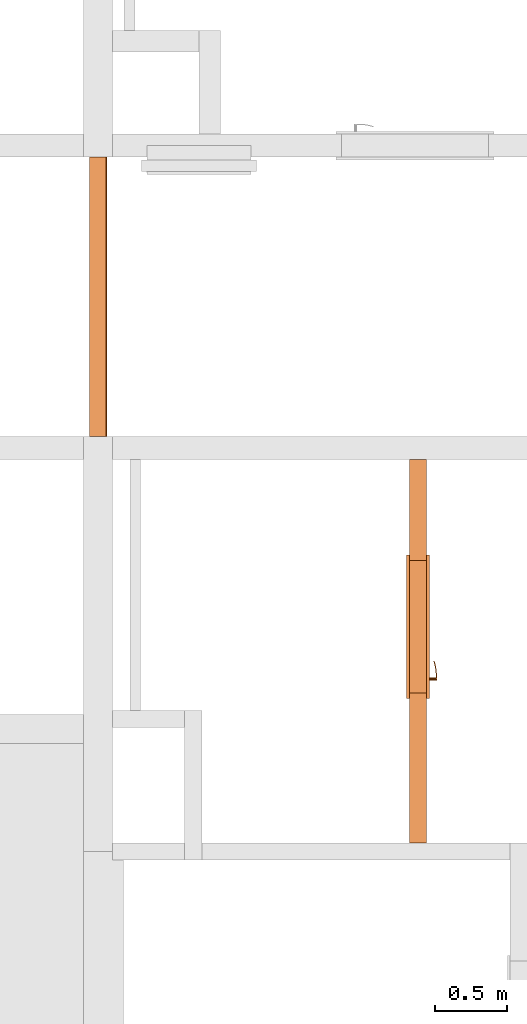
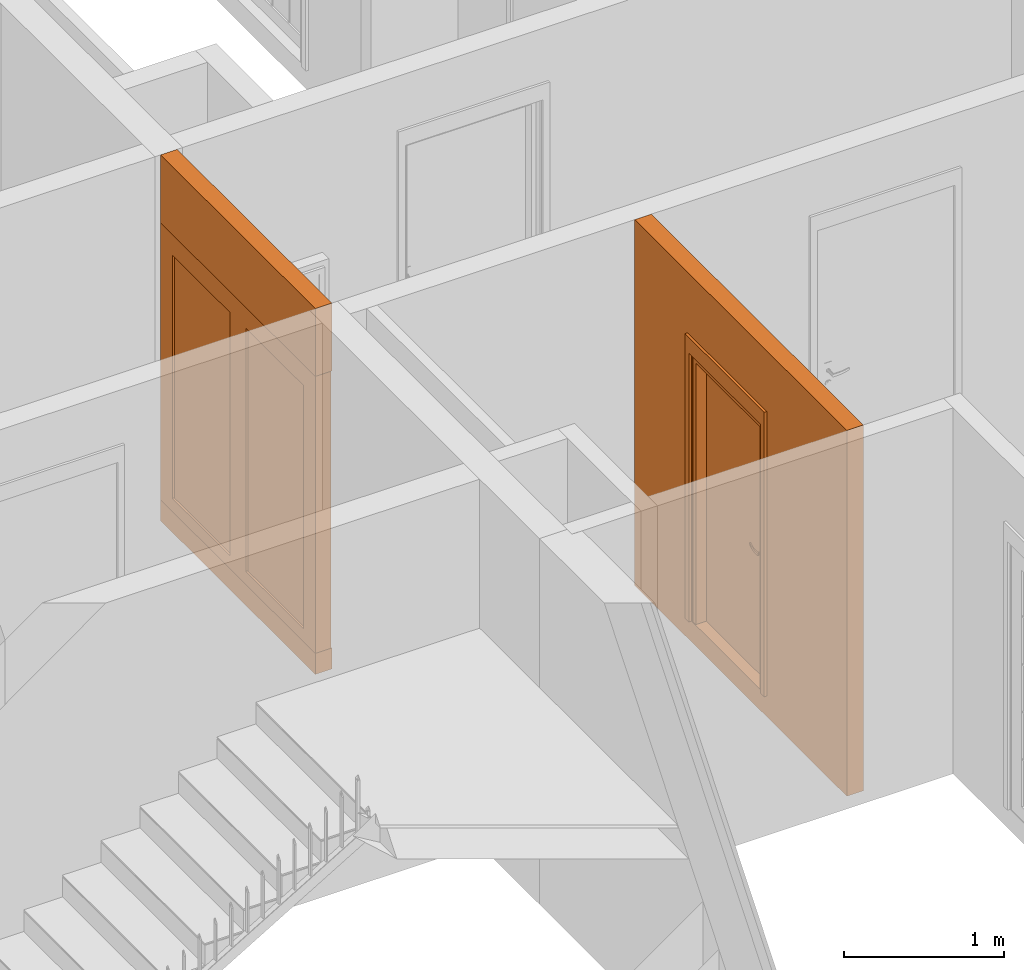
# One storey, part 21 of 64: 4 proxies, 2 openings.
"""IFC2X3 building model written with IfcOpenShell, lengths in millimetres."""

from ifc_helpers import new_model, entity, si_unit, converted_unit, derived_unit, money_unit, direction, frame, origin_with_axes, origin_2d_with_axis, place, context, subcontext, project, spatial, rectangle, extrude, open_shell, faceted_brep, surface_model, source, transform, mapped, material, type_object, element, fill, save


model = new_model("IFC2X3")

# Units and contexts
model_context = context("Model", 3, precision=0.01, world=origin_with_axes(), true_north=direction((0.34421633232, 0.938890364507)))
body_context = subcontext(model_context, "Body", "Model", "MODEL_VIEW")
ifc_project = project(units=[si_unit("LENGTHUNIT", "METRE", prefix="MILLI"), si_unit("AREAUNIT", "SQUARE_METRE"), si_unit("VOLUMEUNIT", "CUBIC_METRE"), converted_unit("PLANEANGLEUNIT", "DEGREE", entity("IfcPlaneAngleMeasure", 0.0174532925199), si_unit("PLANEANGLEUNIT", "RADIAN"), dimensions=[0, 0, 0, 0, 0, 0, 0]), si_unit("SOLIDANGLEUNIT", "STERADIAN"), money_unit("USD"), converted_unit("TIMEUNIT", "Year", entity("IfcTimeMeasure", 31556926.0), si_unit("TIMEUNIT", "SECOND"), dimensions=[0, 0, 1, 0, 0, 0, 0]), si_unit("MASSUNIT", "GRAM", prefix="KILO"), si_unit("THERMODYNAMICTEMPERATUREUNIT", "DEGREE_CELSIUS"), si_unit("LUMINOUSINTENSITYUNIT", "LUMEN"), si_unit("ENERGYUNIT", "JOULE", prefix="MEGA"), derived_unit("THERMALCONDUCTANCEUNIT", [(si_unit("POWERUNIT", "WATT"), 1), (si_unit("LENGTHUNIT", "METRE"), -1), (si_unit("THERMODYNAMICTEMPERATUREUNIT", "KELVIN"), -1)]), derived_unit("SPECIFICHEATCAPACITYUNIT", [(si_unit("ENERGYUNIT", "JOULE"), 1), (si_unit("MASSUNIT", "GRAM", prefix="KILO"), -1), (si_unit("THERMODYNAMICTEMPERATUREUNIT", "KELVIN"), -1)]), derived_unit("MASSDENSITYUNIT", [(si_unit("MASSUNIT", "GRAM", prefix="KILO"), 1), (si_unit("VOLUMEUNIT", "CUBIC_METRE"), -1)])], contexts=[model_context])

# Site, building, storey
site_placement = place(None, origin_with_axes())
site = spatial("IfcSite", under=ifc_project, at=site_placement, Name="USTRONIE MORSKIE", CompositionType="ELEMENT")
building_placement = place(site_placement, origin_with_axes())
building = spatial("IfcBuilding", under=site, at=building_placement, Name="Budynek", CompositionType="ELEMENT")
storey_placement = place(building_placement, frame((0.0, 0.0, 7000.0), z_axis=(0.0, 0.0, 1.0), x_axis=(1.0, 0.0, 0.0)))
storey = spatial("IfcBuildingStorey", under=building, at=storey_placement, Name="PIĘTRO 2", CompositionType="ELEMENT", Elevation=7000.0)

# Proxies, opening
ifc_material = material(Name="Bloczki silikatowe")
building_element_proxy_type_1 = type_object("IfcBuildingElementProxyType", Name="Bloczki silikatowe 120", PredefinedType="NOTDEFINED")
proxy_1_placement = place(storey_placement, frame((398537.940089, 731951.199132, -160.0), z_axis=(0.0, 0.0, 1.0), x_axis=(0.0, 1.0, 0.0)))
proxy_1 = element("IfcBuildingElementProxy", 1, at=proxy_1_placement, inside=storey, type_object=building_element_proxy_type_1, material=ifc_material, Name="SW-04", context=body_context, shape_type="Brep", body=[
    faceted_brep([(2720.00298174, -60.0, 2800.0), (2720.00301893, 60.0, 2800.0), (59.9999999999, 60.0, 2800.0), (59.9999999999, -60.0, 2800.0), (2720.00298174, -60.0, 0.0), (2720.00301893, 60.0, 0.0), (59.9999999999, 60.0, 0.0), (59.9999999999, -60.0, 0.0)], [[[0, 1, 2, 3]], [[1, 0, 4, 5]], [[1, 5, 6, 2]], [[7, 3, 2, 6]], [[4, 0, 3, 7]], [[5, 4, 7, 6]]]),
])
opening_1_placement = place(proxy_1_placement, frame((1559.96669926, 0.0, 160.0), z_axis=(0.0, 0.0, 1.0), x_axis=(1.0, 0.0, 0.0)))
opening_1 = element("IfcOpeningElement", 2, at=opening_1_placement, cuts=proxy_1, Name="Dw.4", context=body_context, shape_type="SweptSolid", body=[
    extrude(rectangle(XDim=920.0, YDim=2070.0, at=origin_2d_with_axis()), frame((0.0, 120.0, 1035.0), z_axis=(0.0, 1.0, 0.0), x_axis=(1.0, 0.0, 0.0)), (0.0, 0.0, -1.0), 360.0),
    extrude(rectangle(XDim=994.0, YDim=2177.0, at=origin_2d_with_axis()), frame((0.0, 60.0, 1088.5), z_axis=(0.0, 1.0, 0.0), x_axis=(1.0, 0.0, 0.0)), (0.0, 0.0, 1.0), 120.0),
    extrude(rectangle(XDim=994.0, YDim=2177.0, at=origin_2d_with_axis()), frame((0.0, -60.0, 1088.5), z_axis=(0.0, -1.0, 0.0), x_axis=(1.0, 0.0, 0.0)), (0.0, 0.0, 1.0), 120.0),
])
building_element_proxy_type_2 = type_object("IfcBuildingElementProxyType", Name="Drzwi 23", PredefinedType="NOTDEFINED")
shared_shape_1 = source(origin_with_axes(), body_context, "Body", "SurfaceModel", [
    faceted_brep([(460.0, -115.0, 0.0), (460.0, -120.0, 0.0), (435.0, -120.0, 0.0), (435.0, -115.0, 0.0), (460.0, -115.0, 2070.0), (460.0, -120.0, 2070.0), (435.0, -120.0, 2045.0), (435.0, -115.0, 2045.0)], [[[0, 1, 2, 3]], [[4, 5, 1, 0]], [[1, 5, 6, 2]], [[3, 2, 6, 7]], [[0, 3, 7, 4]], [[7, 6, 5, 4]]]),
    faceted_brep([(-460.0, -115.0, 2070.0), (-460.0, -120.0, 2070.0), (-435.0, -120.0, 2045.0), (-435.0, -115.0, 2045.0), (-460.0, -115.0, 0.0), (-460.0, -120.0, 0.0), (-435.0, -120.0, 0.0), (-435.0, -115.0, 0.0)], [[[0, 1, 2, 3]], [[4, 5, 1, 0]], [[1, 5, 6, 2]], [[3, 2, 6, 7]], [[0, 3, 7, 4]], [[7, 6, 5, 4]]]),
    faceted_brep([(435.0, -115.0, 2045.0), (435.0, -120.0, 2045.0), (-435.0, -120.0, 2045.0), (-435.0, -115.0, 2045.0), (460.0, -115.0, 2070.0), (460.0, -120.0, 2070.0), (-460.0, -120.0, 2070.0), (-460.0, -115.0, 2070.0)], [[[0, 1, 2, 3]], [[4, 5, 1, 0]], [[1, 5, 6, 2]], [[3, 2, 6, 7]], [[0, 3, 7, 4]], [[7, 6, 5, 4]]]),
    faceted_brep([(497.0, -139.0, 0.0), (447.0, -139.0, 0.0), (447.0, -120.0, 0.0), (497.0, -120.0, 0.0), (497.0, -139.0, 2177.0), (447.0, -139.0, 2057.0), (447.0, -120.0, 2057.0), (497.0, -120.0, 2177.0)], [[[0, 1, 2, 3]], [[0, 4, 5, 1]], [[1, 5, 6, 2]], [[3, 2, 6, 7]], [[4, 0, 3, 7]], [[5, 4, 7, 6]]]),
    faceted_brep([(-497.0, -139.0, 2177.0), (-447.0, -139.0, 2057.0), (-447.0, -120.0, 2057.0), (-497.0, -120.0, 2177.0), (-497.0, -139.0, 0.0), (-447.0, -139.0, 0.0), (-447.0, -120.0, 0.0), (-497.0, -120.0, 0.0)], [[[0, 1, 2, 3]], [[0, 4, 5, 1]], [[1, 5, 6, 2]], [[3, 2, 6, 7]], [[4, 0, 3, 7]], [[5, 4, 7, 6]]]),
    faceted_brep([(497.0, -139.0, 2177.0), (447.0, -139.0, 2057.0), (447.0, -120.0, 2057.0), (497.0, -120.0, 2177.0), (-497.0, -139.0, 2177.0), (-447.0, -139.0, 2057.0), (-447.0, -120.0, 2057.0), (-497.0, -120.0, 2177.0)], [[[0, 1, 2, 3]], [[0, 4, 5, 1]], [[1, 5, 6, 2]], [[3, 2, 6, 7]], [[4, 0, 3, 7]], [[5, 4, 7, 6]]]),
    faceted_brep([(497.0, 19.0, 0.0), (497.0, 0.0, 0.0), (447.0, 0.0, 0.0), (447.0, 19.0, 0.0), (497.0, 19.0, 2177.0), (497.0, 0.0, 2177.0), (447.0, 0.0, 2057.0), (447.0, 19.0, 2057.0)], [[[0, 1, 2, 3]], [[4, 5, 1, 0]], [[1, 5, 6, 2]], [[3, 2, 6, 7]], [[0, 3, 7, 4]], [[7, 6, 5, 4]]]),
    faceted_brep([(-497.0, 19.0, 2177.0), (-497.0, 0.0, 2177.0), (-447.0, 0.0, 2057.0), (-447.0, 19.0, 2057.0), (-497.0, 19.0, 0.0), (-497.0, 0.0, 0.0), (-447.0, 0.0, 0.0), (-447.0, 19.0, 0.0)], [[[0, 1, 2, 3]], [[4, 5, 1, 0]], [[1, 5, 6, 2]], [[3, 2, 6, 7]], [[0, 3, 7, 4]], [[7, 6, 5, 4]]]),
    faceted_brep([(497.0, 19.0, 2177.0), (497.0, 0.0, 2177.0), (447.0, 0.0, 2057.0), (447.0, 19.0, 2057.0), (-497.0, 19.0, 2177.0), (-497.0, 0.0, 2177.0), (-447.0, 0.0, 2057.0), (-447.0, 19.0, 2057.0)], [[[0, 1, 2, 3]], [[4, 5, 1, 0]], [[1, 5, 6, 2]], [[3, 2, 6, 7]], [[0, 3, 7, 4]], [[7, 6, 5, 4]]]),
    faceted_brep([(400.0, -40.0, 0.0), (400.0, -115.0, 0.0), (400.0, -115.0, 2000.0), (400.0, -40.0, 2000.0), (412.0, -40.0, 0.0), (412.0, 0.0, 0.0), (460.0, 0.0, 0.0), (460.0, -115.0, 0.0), (460.0, -115.0, 2000.0), (412.0, -40.0, 2000.0), (460.0, 0.0, 2000.0), (412.0, 0.0, 2000.0)], [[[0, 1, 2, 3]], [[4, 5, 6, 7, 1, 0]], [[1, 7, 8, 2]], [[9, 3, 2, 8, 10, 11]], [[9, 4, 0, 3]], [[11, 5, 4, 9]], [[11, 10, 6, 5]], [[6, 10, 8, 7]]]),
    faceted_brep([(-412.0, -40.0, 2000.0), (-412.0, 0.0, 2000.0), (-460.0, 0.0, 2000.0), (-460.0, -115.0, 2000.0), (-400.0, -115.0, 2000.0), (-400.0, -40.0, 2000.0), (-412.0, -40.0, 0.0), (-412.0, 0.0, 0.0), (-460.0, 0.0, 0.0), (-460.0, -115.0, 0.0), (-400.0, -115.0, 0.0), (-400.0, -40.0, 0.0)], [[[0, 1, 2, 3, 4, 5]], [[0, 6, 7, 1]], [[7, 8, 2, 1]], [[2, 8, 9, 3]], [[3, 9, 10, 4]], [[5, 4, 10, 11]], [[5, 11, 6, 0]], [[6, 11, 10, 9, 8, 7]]]),
    faceted_brep([(412.0, 0.0, 2012.0), (-412.0, 0.0, 2012.0), (-412.0, 0.0, 2000.0), (-460.0, 0.0, 2000.0), (-460.0, 0.0, 2070.0), (460.0, 0.0, 2070.0), (460.0, 0.0, 2000.0), (412.0, 0.0, 2000.0), (412.0, -40.0, 2012.0), (-412.0, -40.0, 2012.0), (-412.0, -40.0, 2000.0), (-400.0, -40.0, 2000.0), (-400.0, -115.0, 2000.0), (-460.0, -115.0, 2000.0), (-460.0, -115.0, 2070.0), (460.0, -115.0, 2070.0), (460.0, -115.0, 2000.0), (412.0, -40.0, 2000.0), (400.0, -115.0, 2000.0), (400.0, -40.0, 2000.0)], [[[0, 1, 2, 3, 4, 5, 6, 7]], [[0, 8, 9, 1]], [[1, 9, 10, 2]], [[10, 11, 12, 13, 3, 2]], [[4, 3, 13, 14]], [[5, 4, 14, 15]], [[6, 5, 15, 16]], [[17, 7, 6, 16, 18, 19]], [[7, 17, 8, 0]], [[10, 9, 8, 17, 19, 11]], [[19, 18, 12, 11]], [[12, 18, 16, 15, 14, 13]]]),
    faceted_brep([(390.5, -40.0, 1060.0), (333.5, -40.0, 1060.0), (333.5, -43.0, 1060.0), (390.5, -43.0, 1060.0), (390.5, -40.0, 870.0), (333.5, -40.0, 870.0), (333.5, -43.0, 870.0), (390.5, -43.0, 870.0)], [[[0, 1, 2, 3]], [[0, 4, 5, 1]], [[1, 5, 6, 2]], [[3, 2, 6, 7]], [[4, 0, 3, 7]], [[5, 4, 7, 6]]]),
    faceted_brep([(362.0, -104.0, 990.0), (367.0, -104.0, 991.339745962), (367.0, -111.0, 991.339745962), (362.0, -111.0, 990.0), (337.0, -104.0, 990.0), (337.0, -104.0, 1010.0), (362.0, -104.0, 1010.0), (367.0, -104.0, 1008.66025404), (370.660254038, -104.0, 1005.0), (372.0, -104.0, 1000.0), (370.660254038, -104.0, 995.0), (370.660254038, -111.0, 995.0), (372.0, -111.0, 1000.0), (370.660254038, -111.0, 1005.0), (367.0, -111.0, 1008.66025404), (362.0, -111.0, 1010.0), (337.0, -111.0, 1010.0), (337.0, -111.0, 990.0)], [[[0, 1, 2, 3]], [[0, 4, 5, 6, 7, 8, 9, 10, 1]], [[1, 10, 11, 2]], [[3, 2, 11, 12, 13, 14, 15, 16, 17]], [[4, 0, 3, 17]], [[5, 4, 17, 16]], [[6, 5, 16, 15]], [[7, 6, 15, 14]], [[8, 7, 14, 13]], [[9, 8, 13, 12]], [[10, 9, 12, 11]]]),
    surface_model("IfcShellBasedSurfaceModel", [(337.0, -104.0, 1010.0), (323.901717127, -104.0, 1009.60730092), (323.596090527, -111.0, 1009.60730092), (337.0, -104.0, 990.0), (323.901717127, -104.0, 990.392699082), (296.890283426, -108.663544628, 1008.82190275), (337.0, -111.0, 1010.0), (337.0, -111.0, 990.0), (297.804837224, -101.716818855, 991.178097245), (297.804837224, -101.716818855, 1008.82190275), (296.890283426, -108.663544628, 991.178097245), (323.596090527, -111.0, 990.392699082), (272.006256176, -97.1678329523, 991.963495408), (272.006256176, -97.1678329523, 1008.03650459), (270.489735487, -104.008415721, 1008.03650459), (270.489735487, -104.008415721, 991.963495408), (246.702316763, -90.3876628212, 992.748893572), (246.702316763, -90.3876628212, 1007.25110643), (244.59537082, -97.0700416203, 1007.25110643), (244.59537082, -97.0700416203, 992.748893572), (238.829442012, -87.5221707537, 993.0), (238.829442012, -87.5221707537, 1007.0), (236.538795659, -94.1376880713, 1007.0), (236.538795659, -94.1376880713, 993.0)], [open_shell([[[0, 1, 2]], [[0, 3, 4, 1]], [[1, 5, 2]], [[0, 2, 6]], [[4, 3, 7]], [[1, 4, 8, 9]], [[1, 9, 5]], [[2, 5, 10, 11]], [[6, 2, 11, 7]], [[4, 7, 11]], [[8, 4, 11]], [[9, 8, 12, 13]], [[9, 14, 5]], [[5, 14, 15, 10]], [[8, 11, 10]], [[12, 8, 10]], [[13, 12, 16, 17]], [[9, 13, 14]], [[14, 18, 19, 15]], [[12, 10, 15]], [[16, 12, 15]], [[17, 16, 20, 21]], [[13, 17, 18]], [[13, 18, 14]], [[18, 22, 23, 19]], [[16, 15, 19]], [[20, 16, 19]], [[21, 20, 23, 22]], [[17, 21, 22]], [[17, 22, 18]], [[20, 19, 23]]])]),
    faceted_brep([(351.607695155, -53.0, 994.0), (350.0, -53.0, 1000.0), (349.0, -43.0, 1000.0), (350.741669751, -43.0, 993.5), (356.0, -53.0, 989.607695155), (362.0, -53.0, 988.0), (368.0, -53.0, 989.607695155), (372.392304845, -53.0, 994.0), (374.0, -53.0, 1000.0), (372.392304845, -53.0, 1006.0), (368.0, -53.0, 1010.39230485), (362.0, -53.0, 1012.0), (356.0, -53.0, 1010.39230485), (351.607695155, -53.0, 1006.0), (350.741669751, -43.0, 1006.5), (355.5, -43.0, 1011.25833025), (362.0, -43.0, 1013.0), (368.5, -43.0, 1011.25833025), (373.258330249, -43.0, 1006.5), (375.0, -43.0, 1000.0), (373.258330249, -43.0, 993.5), (368.5, -43.0, 988.741669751), (362.0, -43.0, 987.0), (355.5, -43.0, 988.741669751)], [[[0, 1, 2, 3]], [[1, 0, 4, 5, 6, 7, 8, 9, 10, 11, 12, 13]], [[1, 13, 14, 2]], [[2, 14, 15, 16, 17, 18, 19, 20, 21, 22, 23, 3]], [[4, 0, 3, 23]], [[5, 4, 23, 22]], [[6, 5, 22, 21]], [[7, 6, 21, 20]], [[8, 7, 20, 19]], [[9, 8, 19, 18]], [[10, 9, 18, 17]], [[11, 10, 17, 16]], [[12, 11, 16, 15]], [[13, 12, 15, 14]]]),
    faceted_brep([(344.679491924, -47.0, 895.0), (342.0, -47.0, 905.0), (340.0, -43.0, 905.0), (342.947441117, -43.0, 894.0), (352.0, -47.0, 887.679491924), (362.0, -47.0, 885.0), (372.0, -47.0, 887.679491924), (379.320508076, -47.0, 895.0), (382.0, -47.0, 905.0), (379.320508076, -47.0, 915.0), (372.0, -47.0, 922.320508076), (362.0, -47.0, 925.0), (352.0, -47.0, 922.320508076), (344.679491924, -47.0, 915.0), (342.947441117, -43.0, 916.0), (351.0, -43.0, 924.052558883), (362.0, -43.0, 927.0), (373.0, -43.0, 924.052558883), (381.052558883, -43.0, 916.0), (384.0, -43.0, 905.0), (381.052558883, -43.0, 894.0), (373.0, -43.0, 885.947441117), (362.0, -43.0, 883.0), (351.0, -43.0, 885.947441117)], [[[0, 1, 2, 3]], [[1, 0, 4, 5, 6, 7, 8, 9, 10, 11, 12, 13]], [[1, 13, 14, 2]], [[2, 14, 15, 16, 17, 18, 19, 20, 21, 22, 23, 3]], [[4, 0, 3, 23]], [[5, 4, 23, 22]], [[6, 5, 22, 21]], [[7, 6, 21, 20]], [[8, 7, 20, 19]], [[9, 8, 19, 18]], [[10, 9, 18, 17]], [[11, 10, 17, 16]], [[12, 11, 16, 15]], [[13, 12, 15, 14]]]),
    faceted_brep([(357.050252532, -49.0, 909.050252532), (355.0, -49.0, 914.0), (354.0, -47.0, 914.0), (356.343145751, -47.0, 908.343145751), (362.0, -49.0, 907.0), (366.949747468, -49.0, 909.050252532), (369.0, -49.0, 914.0), (366.949747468, -49.0, 918.949747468), (362.0, -49.0, 921.0), (357.050252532, -49.0, 918.949747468), (356.343145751, -47.0, 919.656854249), (362.0, -47.0, 922.0), (367.656854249, -47.0, 919.656854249), (370.0, -47.0, 914.0), (367.656854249, -47.0, 908.343145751), (362.0, -47.0, 906.0)], [[[0, 1, 2, 3]], [[1, 0, 4, 5, 6, 7, 8, 9]], [[1, 9, 10, 2]], [[2, 10, 11, 12, 13, 14, 15, 3]], [[4, 0, 3, 15]], [[5, 4, 15, 14]], [[6, 5, 14, 13]], [[7, 6, 13, 12]], [[8, 7, 12, 11]], [[9, 8, 11, 10]]]),
    faceted_brep([(362.0, -53.0, 1010.0), (357.0, -53.0, 1008.66025404), (357.0, -104.0, 1008.66025404), (362.0, -104.0, 1010.0), (367.0, -53.0, 1008.66025404), (370.660254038, -53.0, 1005.0), (372.0, -53.0, 1000.0), (370.660254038, -53.0, 995.0), (367.0, -53.0, 991.339745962), (362.0, -53.0, 990.0), (357.0, -53.0, 991.339745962), (353.339745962, -53.0, 995.0), (352.0, -53.0, 1000.0), (353.339745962, -53.0, 1005.0), (353.339745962, -104.0, 1005.0), (352.0, -104.0, 1000.0), (353.339745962, -104.0, 995.0), (357.0, -104.0, 991.339745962), (362.0, -104.0, 990.0), (367.0, -104.0, 991.339745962), (370.660254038, -104.0, 995.0), (372.0, -104.0, 1000.0), (370.660254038, -104.0, 1005.0), (367.0, -104.0, 1008.66025404)], [[[0, 1, 2, 3]], [[0, 4, 5, 6, 7, 8, 9, 10, 11, 12, 13, 1]], [[1, 13, 14, 2]], [[3, 2, 14, 15, 16, 17, 18, 19, 20, 21, 22, 23]], [[4, 0, 3, 23]], [[5, 4, 23, 22]], [[6, 5, 22, 21]], [[7, 6, 21, 20]], [[8, 7, 20, 19]], [[9, 8, 19, 18]], [[10, 9, 18, 17]], [[11, 10, 17, 16]], [[12, 11, 16, 15]], [[13, 12, 15, 14]]]),
    faceted_brep([(390.5, 0.0, 1060.0), (390.5, 3.0, 1060.0), (333.5, 3.0, 1060.0), (333.5, 0.0, 1060.0), (390.5, 0.0, 870.0), (390.5, 3.0, 870.0), (333.5, 3.0, 870.0), (333.5, 0.0, 870.0)], [[[0, 1, 2, 3]], [[4, 5, 1, 0]], [[1, 5, 6, 2]], [[3, 2, 6, 7]], [[0, 3, 7, 4]], [[7, 6, 5, 4]]]),
    faceted_brep([(362.0, 64.0, 990.0), (362.0, 71.0, 990.0), (367.0, 71.0, 991.339745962), (367.0, 64.0, 991.339745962), (337.0, 64.0, 990.0), (337.0, 71.0, 990.0), (337.0, 71.0, 1010.0), (362.0, 71.0, 1010.0), (367.0, 71.0, 1008.66025404), (370.660254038, 71.0, 1005.0), (372.0, 71.0, 1000.0), (370.660254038, 71.0, 995.0), (370.660254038, 64.0, 995.0), (372.0, 64.0, 1000.0), (370.660254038, 64.0, 1005.0), (367.0, 64.0, 1008.66025404), (362.0, 64.0, 1010.0), (337.0, 64.0, 1010.0)], [[[0, 1, 2, 3]], [[4, 5, 1, 0]], [[1, 5, 6, 7, 8, 9, 10, 11, 2]], [[3, 2, 11, 12]], [[0, 3, 12, 13, 14, 15, 16, 17, 4]], [[17, 6, 5, 4]], [[16, 7, 6, 17]], [[15, 8, 7, 16]], [[14, 9, 8, 15]], [[13, 10, 9, 14]], [[12, 11, 10, 13]]]),
    surface_model("IfcShellBasedSurfaceModel", [(337.0, 64.0, 1010.0), (323.596090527, 71.0, 1009.60730092), (323.901717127, 64.0, 1009.60730092), (337.0, 71.0, 1010.0), (296.890283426, 68.6635446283, 1008.82190275), (323.901717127, 64.0, 990.392699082), (337.0, 64.0, 990.0), (337.0, 71.0, 990.0), (323.596090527, 71.0, 990.392699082), (296.890283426, 68.6635446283, 991.178097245), (297.804837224, 61.716818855, 1008.82190275), (297.804837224, 61.716818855, 991.178097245), (270.489735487, 64.0084157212, 991.963495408), (270.489735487, 64.0084157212, 1008.03650459), (272.006256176, 57.1678329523, 1008.03650459), (272.006256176, 57.1678329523, 991.963495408), (244.59537082, 57.0700416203, 992.748893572), (244.59537082, 57.0700416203, 1007.25110643), (246.702316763, 50.3876628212, 1007.25110643), (246.702316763, 50.3876628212, 992.748893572), (236.538795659, 54.1376880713, 993.0), (236.538795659, 54.1376880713, 1007.0), (238.829442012, 47.5221707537, 1007.0), (238.829442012, 47.5221707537, 993.0)], [open_shell([[[0, 1, 2]], [[0, 3, 1]], [[2, 1, 4]], [[0, 2, 5, 6]], [[3, 7, 8, 1]], [[1, 8, 9, 4]], [[2, 4, 10]], [[2, 10, 11, 5]], [[5, 7, 6]], [[5, 8, 7]], [[11, 9, 8]], [[4, 9, 12, 13]], [[10, 4, 13]], [[10, 14, 15, 11]], [[11, 8, 5]], [[15, 9, 11]], [[15, 12, 9]], [[13, 12, 16, 17]], [[10, 13, 14]], [[14, 18, 19, 15]], [[19, 12, 15]], [[19, 16, 12]], [[17, 16, 20, 21]], [[14, 13, 17]], [[14, 17, 18]], [[18, 22, 23, 19]], [[23, 16, 19]], [[23, 20, 16]], [[22, 21, 20, 23]], [[18, 17, 21]], [[18, 21, 22]]])]),
    faceted_brep([(351.607695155, 13.0, 994.0), (350.741669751, 3.0, 993.5), (349.0, 3.0, 1000.0), (350.0, 13.0, 1000.0), (356.0, 13.0, 989.607695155), (355.5, 3.0, 988.741669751), (362.0, 3.0, 987.0), (368.5, 3.0, 988.741669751), (373.258330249, 3.0, 993.5), (375.0, 3.0, 1000.0), (373.258330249, 3.0, 1006.5), (368.5, 3.0, 1011.25833025), (362.0, 3.0, 1013.0), (355.5, 3.0, 1011.25833025), (350.741669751, 3.0, 1006.5), (351.607695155, 13.0, 1006.0), (356.0, 13.0, 1010.39230485), (362.0, 13.0, 1012.0), (368.0, 13.0, 1010.39230485), (372.392304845, 13.0, 1006.0), (374.0, 13.0, 1000.0), (372.392304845, 13.0, 994.0), (368.0, 13.0, 989.607695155), (362.0, 13.0, 988.0)], [[[0, 1, 2, 3]], [[4, 5, 1, 0]], [[2, 1, 5, 6, 7, 8, 9, 10, 11, 12, 13, 14]], [[3, 2, 14, 15]], [[3, 15, 16, 17, 18, 19, 20, 21, 22, 23, 4, 0]], [[23, 6, 5, 4]], [[22, 7, 6, 23]], [[21, 8, 7, 22]], [[20, 9, 8, 21]], [[19, 10, 9, 20]], [[18, 11, 10, 19]], [[17, 12, 11, 18]], [[16, 13, 12, 17]], [[15, 14, 13, 16]]]),
    faceted_brep([(344.679491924, 7.0, 895.0), (342.947441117, 3.0, 894.0), (340.0, 3.0, 905.0), (342.0, 7.0, 905.0), (352.0, 7.0, 887.679491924), (351.0, 3.0, 885.947441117), (362.0, 3.0, 883.0), (373.0, 3.0, 885.947441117), (381.052558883, 3.0, 894.0), (384.0, 3.0, 905.0), (381.052558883, 3.0, 916.0), (373.0, 3.0, 924.052558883), (362.0, 3.0, 927.0), (351.0, 3.0, 924.052558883), (342.947441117, 3.0, 916.0), (344.679491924, 7.0, 915.0), (352.0, 7.0, 922.320508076), (362.0, 7.0, 925.0), (372.0, 7.0, 922.320508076), (379.320508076, 7.0, 915.0), (382.0, 7.0, 905.0), (379.320508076, 7.0, 895.0), (372.0, 7.0, 887.679491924), (362.0, 7.0, 885.0)], [[[0, 1, 2, 3]], [[4, 5, 1, 0]], [[2, 1, 5, 6, 7, 8, 9, 10, 11, 12, 13, 14]], [[3, 2, 14, 15]], [[3, 15, 16, 17, 18, 19, 20, 21, 22, 23, 4, 0]], [[23, 6, 5, 4]], [[22, 7, 6, 23]], [[21, 8, 7, 22]], [[20, 9, 8, 21]], [[19, 10, 9, 20]], [[18, 11, 10, 19]], [[17, 12, 11, 18]], [[16, 13, 12, 17]], [[15, 14, 13, 16]]]),
    faceted_brep([(357.050252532, 9.0, 909.050252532), (356.343145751, 7.0, 908.343145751), (354.0, 7.0, 914.0), (355.0, 9.0, 914.0), (362.0, 9.0, 907.0), (362.0, 7.0, 906.0), (367.656854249, 7.0, 908.343145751), (370.0, 7.0, 914.0), (367.656854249, 7.0, 919.656854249), (362.0, 7.0, 922.0), (356.343145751, 7.0, 919.656854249), (357.050252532, 9.0, 918.949747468), (362.0, 9.0, 921.0), (366.949747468, 9.0, 918.949747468), (369.0, 9.0, 914.0), (366.949747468, 9.0, 909.050252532)], [[[0, 1, 2, 3]], [[4, 5, 1, 0]], [[2, 1, 5, 6, 7, 8, 9, 10]], [[3, 2, 10, 11]], [[3, 11, 12, 13, 14, 15, 4, 0]], [[15, 6, 5, 4]], [[14, 7, 6, 15]], [[13, 8, 7, 14]], [[12, 9, 8, 13]], [[11, 10, 9, 12]]]),
    faceted_brep([(362.0, 13.0, 1010.0), (362.0, 64.0, 1010.0), (357.0, 64.0, 1008.66025404), (357.0, 13.0, 1008.66025404), (367.0, 13.0, 1008.66025404), (367.0, 64.0, 1008.66025404), (370.660254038, 64.0, 1005.0), (372.0, 64.0, 1000.0), (370.660254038, 64.0, 995.0), (367.0, 64.0, 991.339745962), (362.0, 64.0, 990.0), (357.0, 64.0, 991.339745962), (353.339745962, 64.0, 995.0), (352.0, 64.0, 1000.0), (353.339745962, 64.0, 1005.0), (353.339745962, 13.0, 1005.0), (352.0, 13.0, 1000.0), (353.339745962, 13.0, 995.0), (357.0, 13.0, 991.339745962), (362.0, 13.0, 990.0), (367.0, 13.0, 991.339745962), (370.660254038, 13.0, 995.0), (372.0, 13.0, 1000.0), (370.660254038, 13.0, 1005.0)], [[[0, 1, 2, 3]], [[4, 5, 1, 0]], [[1, 5, 6, 7, 8, 9, 10, 11, 12, 13, 14, 2]], [[3, 2, 14, 15]], [[0, 3, 15, 16, 17, 18, 19, 20, 21, 22, 23, 4]], [[23, 6, 5, 4]], [[22, 7, 6, 23]], [[21, 8, 7, 22]], [[20, 9, 8, 21]], [[19, 10, 9, 20]], [[18, 11, 10, 19]], [[17, 12, 11, 18]], [[16, 13, 12, 17]], [[15, 14, 13, 16]]]),
    faceted_brep([(-412.0, 0.0, 0.0), (412.0, 0.0, 0.0), (412.0, -40.0, 0.0), (-412.0, -40.0, 0.0), (-412.0, 0.0, 2012.0), (412.0, 0.0, 2012.0), (412.0, -40.0, 2012.0), (-412.0, -40.0, 2012.0)], [[[0, 1, 2, 3]], [[0, 4, 5, 1]], [[1, 5, 6, 2]], [[3, 2, 6, 7]], [[4, 0, 3, 7]], [[5, 4, 7, 6]]]),
])
proxy_2_placement = place(opening_1_placement, frame((400.0, 0.0, 0.0), z_axis=(0.0, 0.0, 1.0), x_axis=(-1.0, 0.0, 0.0)))
proxy_2 = element("IfcBuildingElementProxy", 3, at=proxy_2_placement, inside=storey, type_object=building_element_proxy_type_2, Name="Dw.4", context=body_context, shape_type="MappedRepresentation", body=[
    mapped(shared_shape_1, transform((400.0, 60.0, 0.0))),
])
fill(opening_1, proxy_2)

proxy_3_placement = place(storey_placement, frame((396317.920919, 734751.202821, -160.0), z_axis=(0.0, 0.0, 1.0), x_axis=(-4.57271876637e-06, 0.99999999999, 0.0)))
proxy_3 = element("IfcBuildingElementProxy", 4, at=proxy_3_placement, inside=storey, type_object=building_element_proxy_type_1, material=ifc_material, Name="SW-04", context=body_context, shape_type="Brep", body=[
    faceted_brep([(79.9997070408, -60.0, 0.0), (2019.99594089, -60.0, 0.0), (2019.99594089, -60.0, 2800.0), (79.9997070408, -60.0, 2800.0), (80.0002929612, 59.9999999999, 0.0), (2019.99648962, 59.9999999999, 0.0), (2019.99648962, 59.9999999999, 2800.0), (80.0002929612, 59.9999999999, 2800.0)], [[[0, 1, 2, 3]], [[4, 5, 1, 0]], [[5, 6, 2, 1]], [[3, 2, 6, 7]], [[4, 0, 3, 7]], [[7, 6, 5, 4]]]),
])
opening_2_placement = place(proxy_3_placement, frame((1049.99782397, 0.0, 160.0), z_axis=(0.0, 0.0, 1.0), x_axis=(1.0, 0.0, 0.0)))
opening_2 = element("IfcOpeningElement", 5, at=opening_2_placement, cuts=proxy_3, Name="Dw.6s", context=body_context, shape_type="SweptSolid", body=[
    extrude(rectangle(XDim=1940.0, YDim=2120.0, at=origin_2d_with_axis()), frame((0.0, -120.0, 1060.0), z_axis=(0.0, -1.0, 0.0), x_axis=(-1.0, 0.0, 0.0)), (0.0, 0.0, -1.0), 360.0),
])
building_element_proxy_type_3 = type_object("IfcBuildingElementProxyType", Name="Drzwi podwójne 23", PredefinedType="NOTDEFINED")
shared_shape_2 = source(origin_with_axes(), body_context, "Body", "SurfaceModel", [
    faceted_brep([(910.0, -40.0, 0.0), (910.0, -115.0, 0.0), (910.0, -115.0, 2050.0), (910.0, -40.0, 2050.0), (922.0, -40.0, 0.0), (922.0, 0.0, 0.0), (970.0, 0.0, 0.0), (970.0, -115.0, 0.0), (970.0, -115.0, 2050.0), (922.0, -40.0, 2050.0), (970.0, 0.0, 2050.0), (922.0, 0.0, 2050.0)], [[[0, 1, 2, 3]], [[4, 5, 6, 7, 1, 0]], [[1, 7, 8, 2]], [[9, 3, 2, 8, 10, 11]], [[9, 4, 0, 3]], [[11, 5, 4, 9]], [[11, 10, 6, 5]], [[6, 10, 8, 7]]]),
    faceted_brep([(-922.0, -40.0, 2050.0), (-922.0, 0.0, 2050.0), (-970.0, 0.0, 2050.0), (-970.0, -115.0, 2050.0), (-910.0, -115.0, 2050.0), (-910.0, -40.0, 2050.0), (-922.0, -40.0, 0.0), (-922.0, 0.0, 0.0), (-970.0, 0.0, 0.0), (-970.0, -115.0, 0.0), (-910.0, -115.0, 0.0), (-910.0, -40.0, 0.0)], [[[0, 1, 2, 3, 4, 5]], [[0, 6, 7, 1]], [[7, 8, 2, 1]], [[2, 8, 9, 3]], [[3, 9, 10, 4]], [[5, 4, 10, 11]], [[5, 11, 6, 0]], [[6, 11, 10, 9, 8, 7]]]),
    faceted_brep([(922.0, 0.0, 2062.0), (-922.0, 0.0, 2062.0), (-922.0, 0.0, 2050.0), (-970.0, 0.0, 2050.0), (-970.0, 0.0, 2120.0), (970.0, 0.0, 2120.0), (970.0, 0.0, 2050.0), (922.0, 0.0, 2050.0), (922.0, -40.0, 2062.0), (-922.0, -40.0, 2062.0), (-922.0, -40.0, 2050.0), (-910.0, -40.0, 2050.0), (-910.0, -115.0, 2050.0), (-970.0, -115.0, 2050.0), (-970.0, -115.0, 2120.0), (970.0, -115.0, 2120.0), (970.0, -115.0, 2050.0), (922.0, -40.0, 2050.0), (910.0, -115.0, 2050.0), (910.0, -40.0, 2050.0)], [[[0, 1, 2, 3, 4, 5, 6, 7]], [[0, 8, 9, 1]], [[1, 9, 10, 2]], [[10, 11, 12, 13, 3, 2]], [[4, 3, 13, 14]], [[5, 4, 14, 15]], [[6, 5, 15, 16]], [[17, 7, 6, 16, 18, 19]], [[7, 17, 8, 0]], [[10, 9, 8, 17, 19, 11]], [[19, 18, 12, 11]], [[12, 18, 16, 15, 14, 13]]]),
    faceted_brep([(-922.0, 0.0, 100.0), (-822.0, 0.0, 100.0), (-822.0, -40.0, 100.0), (-922.0, -40.0, 100.0), (-922.0, 0.0, 1962.0), (-822.0, 0.0, 1962.0), (-822.0, -40.0, 1962.0), (-922.0, -40.0, 1962.0)], [[[0, 1, 2, 3]], [[0, 4, 5, 1]], [[1, 5, 6, 2]], [[3, 2, 6, 7]], [[4, 0, 3, 7]], [[5, 4, 7, 6]]]),
    faceted_brep([(0.0, 0.0, 100.0), (0.0, 0.0, 1962.0), (0.0, -40.0, 1962.0), (0.0, -40.0, 100.0), (-100.0, 0.0, 100.0), (-100.0, 0.0, 1962.0), (-100.0, -40.0, 1962.0), (-100.0, -40.0, 100.0)], [[[0, 1, 2, 3]], [[0, 4, 5, 1]], [[1, 5, 6, 2]], [[3, 2, 6, 7]], [[4, 0, 3, 7]], [[5, 4, 7, 6]]]),
    faceted_brep([(-922.0, 0.0, 0.0), (0.0, 0.0, 0.0), (0.0, -40.0, 0.0), (-922.0, -40.0, 0.0), (-922.0, 0.0, 100.0), (-822.0, 0.0, 100.0), (-100.0, 0.0, 100.0), (0.0, 0.0, 100.0), (0.0, -40.0, 100.0), (-100.0, -40.0, 100.0), (-822.0, -40.0, 100.0), (-922.0, -40.0, 100.0)], [[[0, 1, 2, 3]], [[0, 4, 5, 6, 7, 1]], [[1, 7, 8, 2]], [[3, 2, 8, 9, 10, 11]], [[4, 0, 3, 11]], [[5, 4, 11, 10]], [[6, 5, 10, 9]], [[7, 6, 9, 8]]]),
    faceted_brep([(-922.0, 0.0, 2062.0), (-922.0, 0.0, 1962.0), (-922.0, -40.0, 1962.0), (-922.0, -40.0, 2062.0), (0.0, 0.0, 2062.0), (0.0, 0.0, 1962.0), (-100.0, 0.0, 1962.0), (-822.0, 0.0, 1962.0), (-822.0, -40.0, 1962.0), (-100.0, -40.0, 1962.0), (0.0, -40.0, 1962.0), (0.0, -40.0, 2062.0)], [[[0, 1, 2, 3]], [[0, 4, 5, 6, 7, 1]], [[1, 7, 8, 2]], [[3, 2, 8, 9, 10, 11]], [[4, 0, 3, 11]], [[5, 4, 11, 10]], [[6, 5, 10, 9]], [[7, 6, 9, 8]]]),
    surface_model("IfcShellBasedSurfaceModel", [(-822.0, -14.0, 100.0), (-822.0, -14.0, 1962.0), (-100.0, -14.0, 1962.0), (-100.0, -14.0, 100.0)], [open_shell([[[0, 1, 2, 3]]])]),
    surface_model("IfcShellBasedSurfaceModel", [(-822.0, -26.0, 100.0), (-100.0, -26.0, 100.0), (-100.0, -26.0, 1962.0), (-822.0, -26.0, 1962.0)], [open_shell([[[0, 1, 2, 3]]])]),
    faceted_brep([(922.0, 0.0, 100.0), (922.0, -40.0, 100.0), (822.0, -40.0, 100.0), (822.0, 0.0, 100.0), (922.0, 0.0, 1962.0), (922.0, -40.0, 1962.0), (822.0, -40.0, 1962.0), (822.0, 0.0, 1962.0)], [[[0, 1, 2, 3]], [[4, 5, 1, 0]], [[1, 5, 6, 2]], [[3, 2, 6, 7]], [[0, 3, 7, 4]], [[7, 6, 5, 4]]]),
    faceted_brep([(0.0, 0.0, 100.0), (0.0, -40.0, 100.0), (0.0, -40.0, 1962.0), (0.0, 0.0, 1962.0), (100.0, 0.0, 100.0), (100.0, -40.0, 100.0), (100.0, -40.0, 1962.0), (100.0, 0.0, 1962.0)], [[[0, 1, 2, 3]], [[4, 5, 1, 0]], [[1, 5, 6, 2]], [[3, 2, 6, 7]], [[0, 3, 7, 4]], [[7, 6, 5, 4]]]),
    faceted_brep([(922.0, 0.0, 0.0), (922.0, -40.0, 0.0), (0.0, -40.0, 0.0), (0.0, 0.0, 0.0), (922.0, 0.0, 100.0), (922.0, -40.0, 100.0), (822.0, -40.0, 100.0), (100.0, -40.0, 100.0), (0.0, -40.0, 100.0), (0.0, 0.0, 100.0), (100.0, 0.0, 100.0), (822.0, 0.0, 100.0)], [[[0, 1, 2, 3]], [[4, 5, 1, 0]], [[1, 5, 6, 7, 8, 2]], [[3, 2, 8, 9]], [[0, 3, 9, 10, 11, 4]], [[11, 6, 5, 4]], [[10, 7, 6, 11]], [[9, 8, 7, 10]]]),
    faceted_brep([(922.0, 0.0, 2062.0), (922.0, -40.0, 2062.0), (922.0, -40.0, 1962.0), (922.0, 0.0, 1962.0), (0.0, 0.0, 2062.0), (0.0, -40.0, 2062.0), (0.0, -40.0, 1962.0), (100.0, -40.0, 1962.0), (822.0, -40.0, 1962.0), (822.0, 0.0, 1962.0), (100.0, 0.0, 1962.0), (0.0, 0.0, 1962.0)], [[[0, 1, 2, 3]], [[4, 5, 1, 0]], [[1, 5, 6, 7, 8, 2]], [[3, 2, 8, 9]], [[0, 3, 9, 10, 11, 4]], [[11, 6, 5, 4]], [[10, 7, 6, 11]], [[9, 8, 7, 10]]]),
    surface_model("IfcShellBasedSurfaceModel", [(822.0, -14.0, 100.0), (100.0, -14.0, 100.0), (100.0, -14.0, 1962.0), (822.0, -14.0, 1962.0)], [open_shell([[[0, 1, 2, 3]]])]),
    surface_model("IfcShellBasedSurfaceModel", [(822.0, -26.0, 100.0), (822.0, -26.0, 1962.0), (100.0, -26.0, 1962.0), (100.0, -26.0, 100.0)], [open_shell([[[0, 1, 2, 3]]])]),
])
proxy_4_placement = place(opening_2_placement, frame((-910.0, -1.13686837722e-10, 0.0), z_axis=(0.0, 0.0, 1.0), x_axis=(1.0, 0.0, 0.0)))
proxy_4 = element("IfcBuildingElementProxy", 6, at=proxy_4_placement, inside=storey, type_object=building_element_proxy_type_3, Name="Dw.6s", context=body_context, shape_type="MappedRepresentation", body=[
    mapped(shared_shape_2, transform((910.0, 60.0, 0.0))),
])
fill(opening_2, proxy_4)

save(model, "model.ifc")
